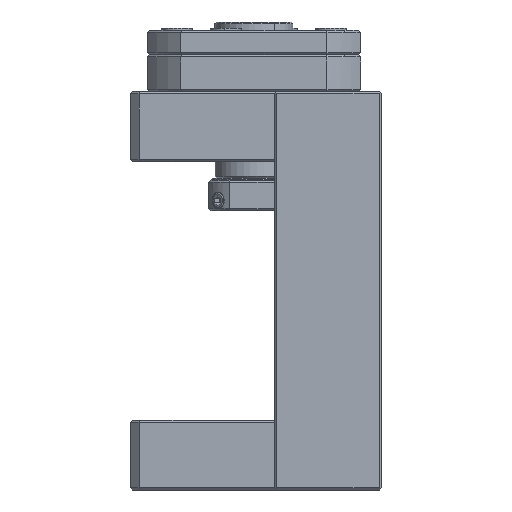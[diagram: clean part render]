
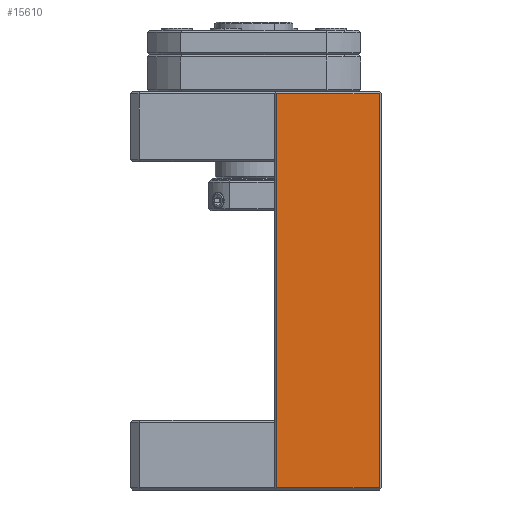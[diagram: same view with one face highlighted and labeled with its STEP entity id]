
A CAD part, left-side view. The second image highlights one B-rep face of the part: STEP entity #15610.
In plain terms, the highlighted planar face has unit normal (-1, 0, 0).
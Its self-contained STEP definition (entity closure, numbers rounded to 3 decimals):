
#15592 = VERTEX_POINT ( 'NONE', #17387 ) ;
#15593 = ORIENTED_EDGE ( 'NONE', *, *, #15594, .T. ) ;
#15594 = EDGE_CURVE ( 'NONE', #15592, #15614, #17450, .T. ) ;
#15610 = ADVANCED_FACE ( 'NONE', ( #17419 ), #17484, .T. ) ;
#15611 = EDGE_LOOP ( 'NONE', ( #15612, #15616, #15675, #15593 ) ) ;
#15612 = ORIENTED_EDGE ( 'NONE', *, *, #15613, .T. ) ;
#15613 = EDGE_CURVE ( 'NONE', #15614, #15615, #17479, .T. ) ;
#15614 = VERTEX_POINT ( 'NONE', #17475 ) ;
#15615 = VERTEX_POINT ( 'NONE', #17474 ) ;
#15616 = ORIENTED_EDGE ( 'NONE', *, *, #15673, .T. ) ;
#15673 = EDGE_CURVE ( 'NONE', #15615, #15674, #17567, .T. ) ;
#15674 = VERTEX_POINT ( 'NONE', #17563 ) ;
#15675 = ORIENTED_EDGE ( 'NONE', *, *, #15676, .T. ) ;
#15676 = EDGE_CURVE ( 'NONE', #15674, #15592, #17562, .T. ) ;
#17387 = CARTESIAN_POINT ( 'NONE',  ( 0., 0.5, -96.5 ) ) ;
#17419 = FACE_OUTER_BOUND ( 'NONE', #15611, .T. ) ;
#17447 = DIRECTION ( 'NONE',  ( 0., 0., 1. ) ) ;
#17448 = VECTOR ( 'NONE', #17447, 1000. ) ;
#17449 = CARTESIAN_POINT ( 'NONE',  ( 0., 0.5, -97. ) ) ;
#17450 = LINE ( 'NONE', #17449, #17448 ) ;
#17474 = CARTESIAN_POINT ( 'NONE',  ( 0., 25.5, -0.5 ) ) ;
#17475 = CARTESIAN_POINT ( 'NONE',  ( 0., 0.5, -0.5 ) ) ;
#17476 = DIRECTION ( 'NONE',  ( 0., 1., 0. ) ) ;
#17477 = VECTOR ( 'NONE', #17476, 1000. ) ;
#17478 = CARTESIAN_POINT ( 'NONE',  ( 0., 26., -0.5 ) ) ;
#17479 = LINE ( 'NONE', #17478, #17477 ) ;
#17480 = DIRECTION ( 'NONE',  ( 0., -1., 0. ) ) ;
#17481 = DIRECTION ( 'NONE',  ( -1., 0., 0. ) ) ;
#17482 = CARTESIAN_POINT ( 'NONE',  ( 0., 26., -97. ) ) ;
#17483 = AXIS2_PLACEMENT_3D ( 'NONE', #17482, #17481, #17480 ) ;
#17484 = PLANE ( 'NONE',  #17483 ) ;
#17559 = DIRECTION ( 'NONE',  ( 0., -1., 0. ) ) ;
#17560 = VECTOR ( 'NONE', #17559, 1000. ) ;
#17561 = CARTESIAN_POINT ( 'NONE',  ( 0., 0., -96.5 ) ) ;
#17562 = LINE ( 'NONE', #17561, #17560 ) ;
#17563 = CARTESIAN_POINT ( 'NONE',  ( 0., 25.5, -96.5 ) ) ;
#17564 = DIRECTION ( 'NONE',  ( 0., 0., -1. ) ) ;
#17565 = VECTOR ( 'NONE', #17564, 1000. ) ;
#17566 = CARTESIAN_POINT ( 'NONE',  ( 0., 25.5, -97. ) ) ;
#17567 = LINE ( 'NONE', #17566, #17565 ) ;
